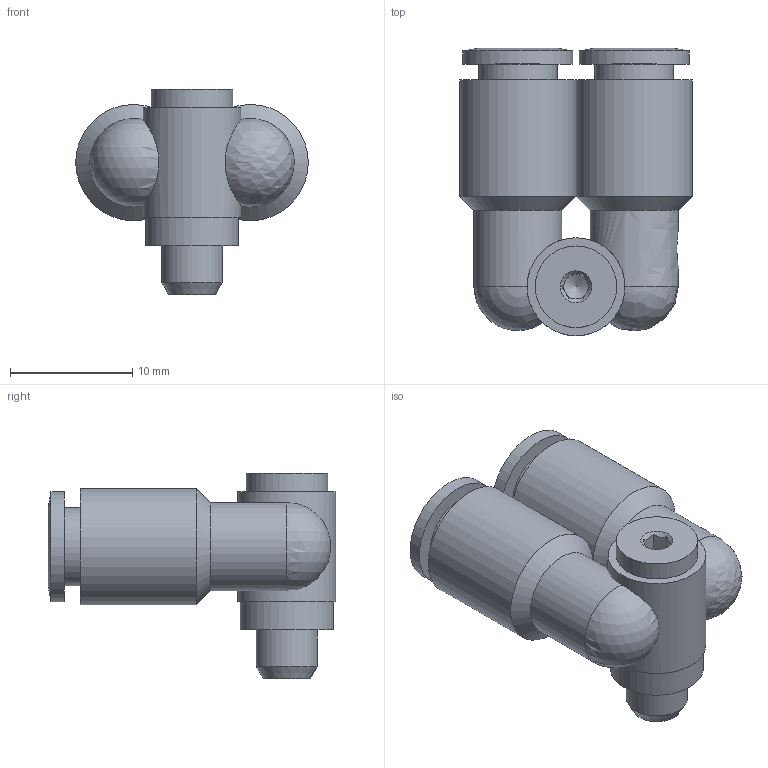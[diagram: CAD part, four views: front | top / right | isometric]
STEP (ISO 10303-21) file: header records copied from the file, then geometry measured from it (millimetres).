
FILE_DESCRIPTION((''),'2;1');
FILE_NAME('C:\Documents and Settings\rivolro1\Documenti\copia di Raccordi\PLASTICA\T15BXXXX\T15B04M5.stp','2007-10-31T08:02:45',('Rivolro1'),(''),'Autodesk Inventor 2008','Autodesk Inventor 2008','');
FILE_SCHEMA(('AUTOMOTIVE_DESIGN { 1 0 10303 214 1 1 1 1 }'));
Length unit declared in the file: millimetre
Products named in the file (1): T15B04M5
Bounding box: 19 x 23.5 x 16.8 mm (x, y, z)
Volume: 2494.9 mm3; surface area: 2238.3 mm2
Topology: 1 solids, 1 shells, 57 faces, 132 edges, 80 vertices
Faces by surface type: bspline 22, plane 20, cylinder 11, cone 3, sphere 1
Full cylindrical faces by diameter (mm): 2.3 x1, 5 x1, 6.4 x1, 6.667 x1, 7.2 x1, 7.6 x1, 8 x1, 9 x1, 9.5 x1
Entity records: 1911 total; most frequent: CARTESIAN_POINT 807, DIRECTION 200, ORIENTED_EDGE 186, EDGE_CURVE 93, EDGE_LOOP 92, AXIS2_PLACEMENT_3D 89, VERTEX_POINT 71, FACE_OUTER_BOUND 57
